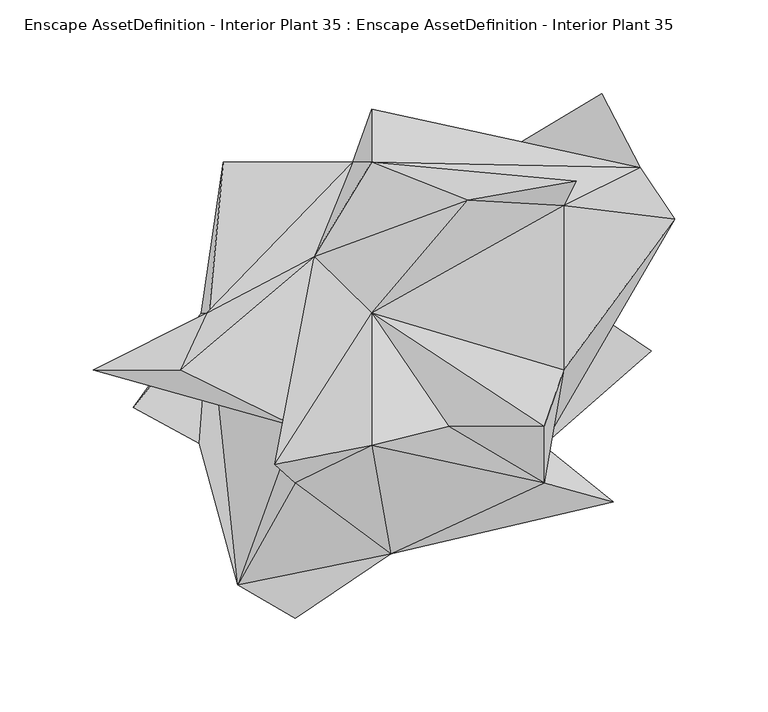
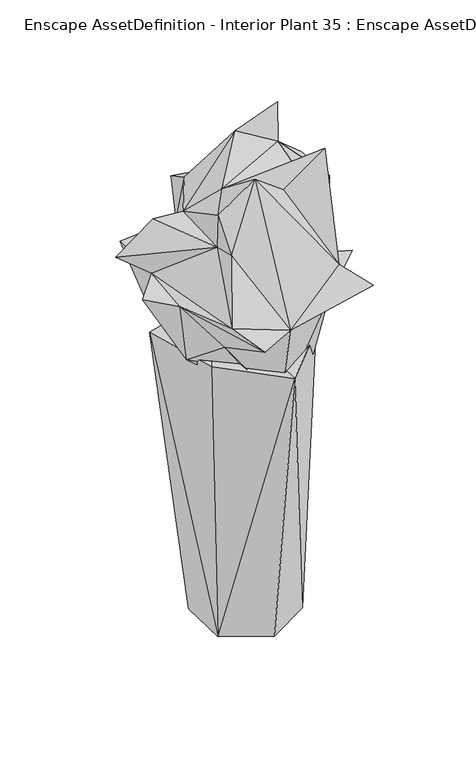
"""IFC4 building model written with IfcOpenShell, lengths in millimetres: geographic element geometry, Enscape AssetDefinition - Interior Plant 35 : Enscape AssetDefinition - Interior Plant 35."""

from ifc_helpers import new_model, si_unit, origin, place, context, project, spatial, faceted_brep, source, transform, mapped, element, save


def enscape_assetdefinition_interior_plant_35_enscape_2c715937(model_context):
    return source(origin(), model_context, "Body", "Brep", [
        faceted_brep([(-2.3321961, 61.3709874, -0.0236406), (-53.5480082, -30.8581721, -0.0236406), (-54.4422381, 29.9742203, -0.0236406), (-0.3011606, -60.2886602, -0.0236406), (-92.0287296, 48.1939241, 362.9777431), (-66.9450313, -40.4511169, 362.9777431), (-0.5499008, -104.316704, 362.9777431), (-3.5224489, 73.7607181, 362.9777431), (51.9332513, -29.0974621, -0.0236406), (63.6764616, -38.2710434, 362.9777431), (50.7974736, 31.7308195, -0.0236406), (85.7876167, 51.1613339, 362.9777431)], [[[0, 1, 2]], [[0, 3, 1]], [[4, 2, 1]], [[4, 1, 5]], [[6, 1, 3]], [[5, 1, 6]], [[4, 0, 2]], [[5, 7, 4]], [[7, 0, 4]], [[5, 6, 7]], [[6, 3, 8]], [[7, 6, 9]], [[6, 8, 9]], [[8, 3, 0]], [[8, 0, 10]], [[11, 8, 10]], [[9, 8, 11]], [[7, 9, 11]], [[11, 0, 7]], [[11, 10, 0]]]),
        faceted_brep([(-55.6859374, 47.3726727, 332.354933), (-111.9772866, 17.0695391, 423.9385724), (-71.9815046, 77.6747763, 419.7829962), (-82.2322667, -13.2335946, 360.7884049), (-148.2861489, -33.4360264, 474.8183191), (-107.7569202, 17.0695391, 464.6425545), (-100.0973657, 97.8772119, 454.4668198), (-0.2230439, 73.2077286, 362.8831506), (-30.9763756, 97.8772119, 459.5444202), (-108.9677289, 17.0695391, 515.5222416), (-51.478941, 47.3726727, 507.4834228), (-20.7256097, 126.2983382, 495.1697886), (-20.7256097, 97.8772119, 510.0520253), (-169.5811898, -13.2335946, 525.6980062), (-123.2373938, -13.2335946, 559.6654415), (-61.7297105, -43.5367301, 519.1526413), (-92.4830362, -128.186509, 474.8183191), (-72.5509301, -63.7391582, 576.577723), (-61.7297105, -73.8398582, 526.3291001), (-112.9856035, -52.4862371, 464.6425545), (-61.7297105, -146.0855156, 444.2900717), (-10.4738129, -111.7748022, 434.114337), (-20.7256097, -53.6374301, 599.608779), (-20.7256097, 17.0695391, 544.1972613), (71.5354159, -73.8398582, 468.4332907), (20.2795211, -43.5367301, 565.3073192), (71.5354159, -43.5367301, 601.8114686), (70.9372014, -53.6374301, 413.7628675), (81.7861855, -13.2335946, 511.1097097), (108.4178314, -83.9405656, 434.114337), (141.148746, 67.5740764, 474.8183191), (81.7861855, 74.6405572, 535.8737111), (69.0685734, 37.2709408, 413.7628675), (122.7902919, 95.0824767, 495.1697886), (30.5302888, 77.6747763, 565.107882), (88.6275619, 87.7765045, 576.577723), (102.2887528, 134.6773952, 464.6425545), (69.2258328, 6.9678091, 332.354933), (30.5302888, 57.4733727, 359.4408929), (81.7861855, 6.9678091, 385.8402371), (-0.2230439, -73.8398582, 310.5747402), (55.734247, -43.5367301, 332.354933), (-58.5968159, -53.6374301, 393.4103847), (-30.9763756, -50.5734012, 352.7074158), (128.7795752, -3.132893, 423.9385724)], [[[0, 1, 2]], [[3, 4, 1]], [[0, 3, 1]], [[1, 5, 6]], [[5, 1, 4]], [[6, 2, 1]], [[2, 7, 0]], [[2, 8, 7]], [[6, 8, 2]], [[5, 8, 6]], [[9, 10, 8]], [[5, 9, 8]], [[7, 8, 11]], [[8, 10, 12]], [[8, 12, 11]], [[9, 5, 13]], [[9, 13, 14]], [[10, 9, 14]], [[15, 14, 13]], [[15, 13, 5]], [[10, 14, 15]], [[5, 16, 15]], [[15, 17, 10]], [[15, 16, 18]], [[18, 17, 15]], [[5, 19, 16]], [[19, 20, 16]], [[21, 18, 16]], [[21, 16, 20]], [[21, 22, 18]], [[17, 18, 22]], [[23, 17, 22]], [[10, 17, 23]], [[21, 24, 22]], [[24, 25, 22]], [[23, 22, 25]], [[24, 26, 25]], [[27, 28, 24]], [[28, 26, 24]], [[27, 24, 29]], [[21, 29, 24]], [[23, 25, 26]], [[23, 26, 28]], [[27, 30, 28]], [[31, 23, 28]], [[28, 30, 31]], [[30, 27, 32]], [[32, 33, 30]], [[33, 31, 30]], [[33, 12, 31]], [[23, 31, 34]], [[31, 35, 34]], [[12, 35, 31]], [[12, 10, 34]], [[12, 34, 35]], [[11, 12, 33]], [[10, 23, 34]], [[7, 11, 33]], [[7, 33, 36]], [[36, 33, 32]], [[0, 7, 37]], [[37, 7, 38]], [[38, 7, 36]], [[36, 32, 38]], [[39, 38, 32]], [[37, 38, 39]], [[37, 40, 0]], [[40, 37, 41]], [[37, 39, 41]], [[0, 40, 3]], [[3, 42, 19]], [[40, 43, 3]], [[42, 3, 43]], [[19, 4, 3]], [[42, 20, 19]], [[40, 21, 42]], [[42, 21, 20]], [[43, 40, 42]], [[19, 5, 4]], [[40, 27, 21]], [[41, 27, 40]], [[39, 27, 41]], [[39, 44, 27]], [[27, 29, 21]], [[27, 44, 32]], [[39, 32, 44]]]),
    ])


if __name__ == "__main__":
    model = new_model("IFC4")
    model_context = context("Model", 3, world=origin())
    ifc_project = project(units=[si_unit("LENGTHUNIT", "METRE", prefix="MILLI")], contexts=[model_context])
    site = spatial("IfcSite", under=ifc_project)
    building = spatial("IfcBuilding", under=site)
    placement = place(None, origin())
    enscape_assetdefinition_interior_plant_35_enscape_shape = enscape_assetdefinition_interior_plant_35_enscape_2c715937(model_context)
    element("IfcGeographicElement", 1, ObjectType="Enscape AssetDefinition - Interior Plant 35 : Enscape AssetDefinition - Interior Plant 35", at=placement, inside=building, context=model_context, shape_type="MappedRepresentation", body=[
        mapped(enscape_assetdefinition_interior_plant_35_enscape_shape, transform((0.0, 0.0, 0.0), x_axis=(1.0, 0.0, 0.0), y_axis=(0.0, 1.0, 0.0), z_axis=(0.0, 0.0, 1.0))),
    ])
    save(model, "model.ifc")
